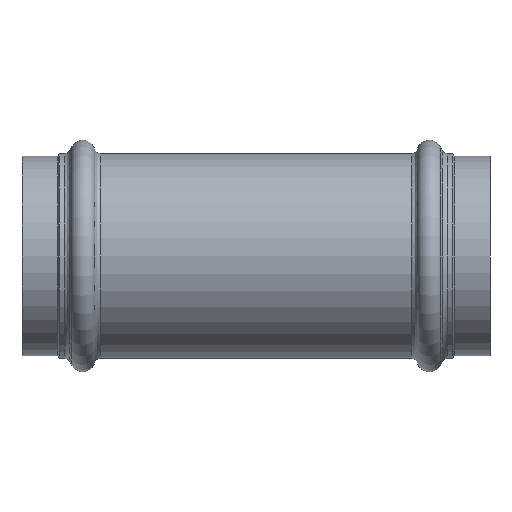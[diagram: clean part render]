
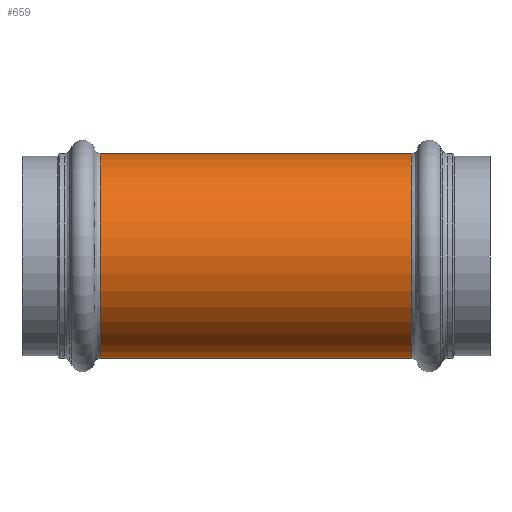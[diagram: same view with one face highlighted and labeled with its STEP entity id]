
A CAD part, front view. The second image highlights one B-rep face of the part: STEP entity #659.
In plain terms, the highlighted cylindrical face has radius 28.675 mm (diameter 57.35 mm), a full revolution.
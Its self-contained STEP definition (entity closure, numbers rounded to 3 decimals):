
#617=CARTESIAN_POINT('',(43.665,28.675,0.));
#618=VERTEX_POINT('',#617);
#619=CARTESIAN_POINT('',(43.665,0.,0.0));
#620=DIRECTION('',(1.0,0.0,0.0));
#621=DIRECTION('',(0.0,-1.0,0.0));
#622=AXIS2_PLACEMENT_3D('',#619,#620,#621);
#623=CIRCLE('',#622,28.675);
#624=EDGE_CURVE('',#618,#618,#623,.T.);
#640=CARTESIAN_POINT('',(0.0,0.0,0.0));
#641=DIRECTION('',(1.0,0.,0.0));
#642=DIRECTION('',(0.0,1.0,0.0));
#643=AXIS2_PLACEMENT_3D('',#640,#641,#642);
#644=CYLINDRICAL_SURFACE('',#643,28.675);
#645=CARTESIAN_POINT('',(-43.665,28.675,0.));
#646=VERTEX_POINT('',#645);
#647=CARTESIAN_POINT('',(-43.665,0.,0.0));
#648=DIRECTION('',(-1.0,0.0,0.0));
#649=DIRECTION('',(0.0,-1.0,0.0));
#650=AXIS2_PLACEMENT_3D('',#647,#648,#649);
#651=CIRCLE('',#650,28.675);
#652=EDGE_CURVE('',#646,#646,#651,.T.);
#653=ORIENTED_EDGE('',*,*,#652,.F.);
#654=EDGE_LOOP('',(#653));
#655=FACE_OUTER_BOUND('',#654,.T.);
#656=ORIENTED_EDGE('',*,*,#624,.F.);
#657=EDGE_LOOP('',(#656));
#658=FACE_BOUND('',#657,.T.);
#659=ADVANCED_FACE('',(#655,#658),#644,.T.);
